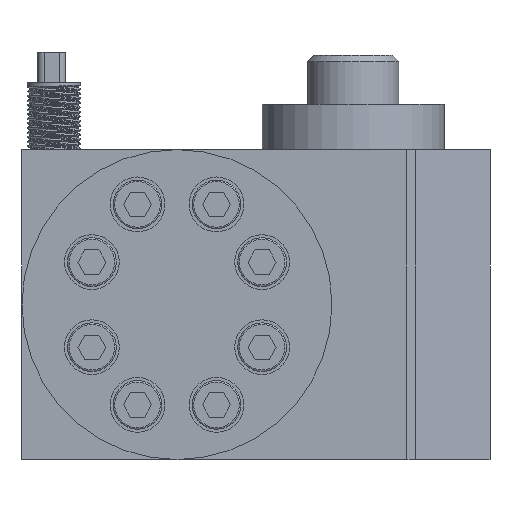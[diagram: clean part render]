
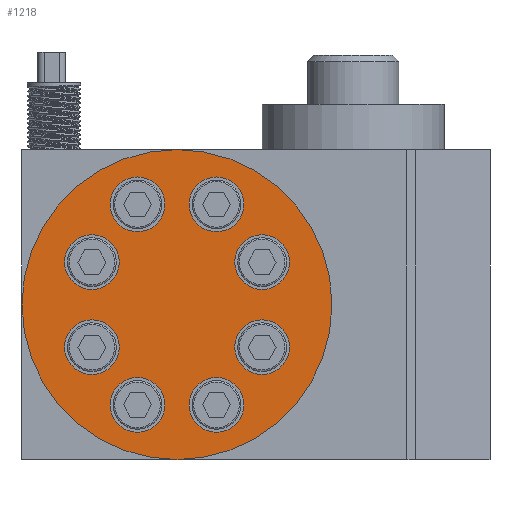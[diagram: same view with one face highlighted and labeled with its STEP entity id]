
A CAD part, left-side view. The second image highlights one B-rep face of the part: STEP entity #1218.
In plain terms, the highlighted planar face has unit normal (-1, 0, 0).
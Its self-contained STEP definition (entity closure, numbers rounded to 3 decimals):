
#1218=ADVANCED_FACE('',(#2306,#2307,#2308,#2309,#2310,#2311,#2312,#2313,
#2314),#1750,.F.);
#1750=PLANE('',#11028);
#2306=FACE_BOUND('',#3146,.T.);
#2307=FACE_BOUND('',#3147,.T.);
#2308=FACE_BOUND('',#3148,.T.);
#2309=FACE_BOUND('',#3149,.T.);
#2310=FACE_BOUND('',#3150,.T.);
#2311=FACE_BOUND('',#3151,.T.);
#2312=FACE_BOUND('',#3152,.T.);
#2313=FACE_BOUND('',#3153,.T.);
#2314=FACE_BOUND('',#3154,.T.);
#3146=EDGE_LOOP('',(#5391));
#3147=EDGE_LOOP('',(#5392));
#3148=EDGE_LOOP('',(#5393));
#3149=EDGE_LOOP('',(#5394));
#3150=EDGE_LOOP('',(#5395));
#3151=EDGE_LOOP('',(#5396));
#3152=EDGE_LOOP('',(#5397));
#3153=EDGE_LOOP('',(#5398));
#3154=EDGE_LOOP('',(#5399));
#4033=CIRCLE('',#11017,51.);
#4035=CIRCLE('',#11020,9.);
#4036=CIRCLE('',#11021,9.);
#4037=CIRCLE('',#11022,9.);
#4038=CIRCLE('',#11023,9.);
#4039=CIRCLE('',#11024,9.);
#4040=CIRCLE('',#11025,9.);
#4041=CIRCLE('',#11026,9.);
#4042=CIRCLE('',#11027,9.);
#5391=ORIENTED_EDGE('',*,*,#8299,.T.);
#5392=ORIENTED_EDGE('',*,*,#8300,.T.);
#5393=ORIENTED_EDGE('',*,*,#8301,.T.);
#5394=ORIENTED_EDGE('',*,*,#8302,.T.);
#5395=ORIENTED_EDGE('',*,*,#8303,.T.);
#5396=ORIENTED_EDGE('',*,*,#8304,.T.);
#5397=ORIENTED_EDGE('',*,*,#8305,.T.);
#5398=ORIENTED_EDGE('',*,*,#8306,.T.);
#5399=ORIENTED_EDGE('',*,*,#8297,.F.);
#7202=VERTEX_POINT('',#15938);
#7204=VERTEX_POINT('',#15943);
#7205=VERTEX_POINT('',#15945);
#7206=VERTEX_POINT('',#15947);
#7207=VERTEX_POINT('',#15949);
#7208=VERTEX_POINT('',#15951);
#7209=VERTEX_POINT('',#15953);
#7210=VERTEX_POINT('',#15955);
#7211=VERTEX_POINT('',#15957);
#8297=EDGE_CURVE('',#7202,#7202,#4033,.T.);
#8299=EDGE_CURVE('',#7204,#7204,#4035,.T.);
#8300=EDGE_CURVE('',#7205,#7205,#4036,.T.);
#8301=EDGE_CURVE('',#7206,#7206,#4037,.T.);
#8302=EDGE_CURVE('',#7207,#7207,#4038,.T.);
#8303=EDGE_CURVE('',#7208,#7208,#4039,.T.);
#8304=EDGE_CURVE('',#7209,#7209,#4040,.T.);
#8305=EDGE_CURVE('',#7210,#7210,#4041,.T.);
#8306=EDGE_CURVE('',#7211,#7211,#4042,.T.);
#11017=AXIS2_PLACEMENT_3D('',#15937,#12961,#12962);
#11020=AXIS2_PLACEMENT_3D('',#15942,#12967,#12968);
#11021=AXIS2_PLACEMENT_3D('',#15944,#12969,#12970);
#11022=AXIS2_PLACEMENT_3D('',#15946,#12971,#12972);
#11023=AXIS2_PLACEMENT_3D('',#15948,#12973,#12974);
#11024=AXIS2_PLACEMENT_3D('',#15950,#12975,#12976);
#11025=AXIS2_PLACEMENT_3D('',#15952,#12977,#12978);
#11026=AXIS2_PLACEMENT_3D('',#15954,#12979,#12980);
#11027=AXIS2_PLACEMENT_3D('',#15956,#12981,#12982);
#11028=AXIS2_PLACEMENT_3D('',#15958,#12983,#12984);
#12961=DIRECTION('',(1.,0.,0.));
#12962=DIRECTION('',(0.,1.,0.));
#12967=DIRECTION('',(1.,0.,0.));
#12968=DIRECTION('',(0.,-1.,0.));
#12969=DIRECTION('',(1.,0.,0.));
#12970=DIRECTION('',(0.,-1.,0.));
#12971=DIRECTION('',(1.,0.,0.));
#12972=DIRECTION('',(0.,-1.,0.));
#12973=DIRECTION('',(1.,0.,0.));
#12974=DIRECTION('',(0.,-1.,0.));
#12975=DIRECTION('',(1.,0.,0.));
#12976=DIRECTION('',(0.,-1.,0.));
#12977=DIRECTION('',(1.,0.,0.));
#12978=DIRECTION('',(0.,-1.,0.));
#12979=DIRECTION('',(1.,0.,0.));
#12980=DIRECTION('',(0.,-1.,0.));
#12981=DIRECTION('',(1.,0.,0.));
#12982=DIRECTION('',(0.,-1.,0.));
#12983=DIRECTION('',(1.,0.,0.));
#12984=DIRECTION('',(0.,0.,-1.));
#15937=CARTESIAN_POINT('',(-102.5,37.,51.));
#15938=CARTESIAN_POINT('',(-102.5,88.,51.));
#15942=CARTESIAN_POINT('',(-102.5,65.,37.));
#15943=CARTESIAN_POINT('',(-102.5,56.,37.));
#15944=CARTESIAN_POINT('',(-102.5,9.,37.));
#15945=CARTESIAN_POINT('',(-102.5,0.,37.));
#15946=CARTESIAN_POINT('',(-102.5,9.,65.));
#15947=CARTESIAN_POINT('',(-102.5,0.,65.));
#15948=CARTESIAN_POINT('',(-102.5,65.,65.));
#15949=CARTESIAN_POINT('',(-102.5,56.,65.));
#15950=CARTESIAN_POINT('',(-102.5,50.,18.));
#15951=CARTESIAN_POINT('',(-102.5,41.,18.));
#15952=CARTESIAN_POINT('',(-102.5,24.,18.));
#15953=CARTESIAN_POINT('',(-102.5,15.,18.));
#15954=CARTESIAN_POINT('',(-102.5,24.,84.));
#15955=CARTESIAN_POINT('',(-102.5,15.,84.));
#15956=CARTESIAN_POINT('',(-102.5,50.,84.));
#15957=CARTESIAN_POINT('',(-102.5,41.,84.));
#15958=CARTESIAN_POINT('',(-102.5,37.,51.));
